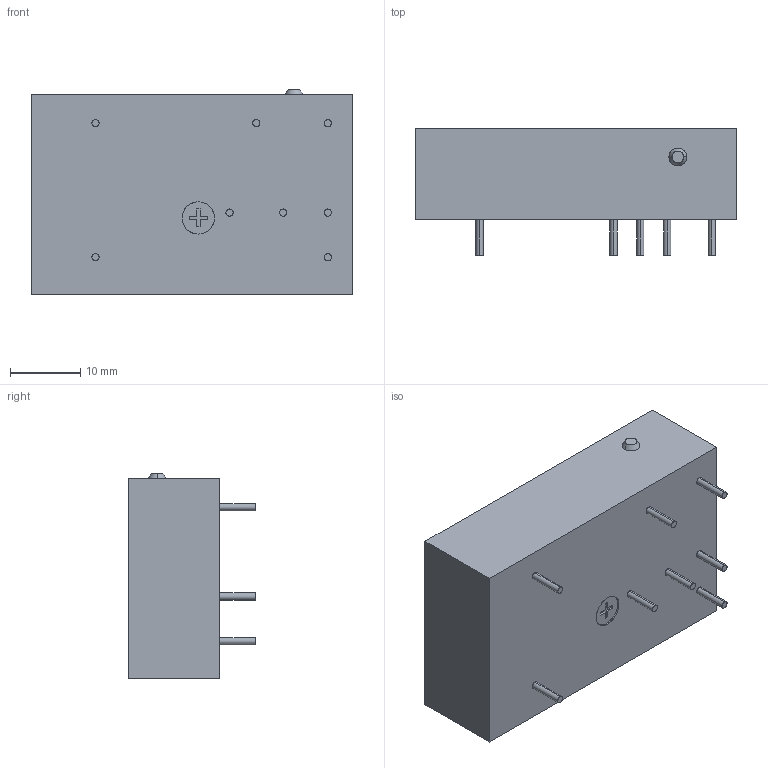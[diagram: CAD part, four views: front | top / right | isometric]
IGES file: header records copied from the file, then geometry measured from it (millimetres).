
Start section: SolidWorks IGES file using analytic representation for surfaces
Global section: file name: C:\Users\asmith\Desktop\~For Darol\Checked .igs Files\CA-T Series\CA-T Series.IGS; native system: SolidWorks 2017; preprocessor: SolidWorks 2017; author: asmith; date: 171113.103601; units: inch
Bounding box: 45.72 x 18.03 x 29.21 mm (x, y, z)
Surface area: 4661.7 mm2 (no closed solid volume)
Topology: 0 solids, 0 shells, 49 faces, 544 edges, 544 vertices
Faces by surface type: bspline 29, revolution 20
